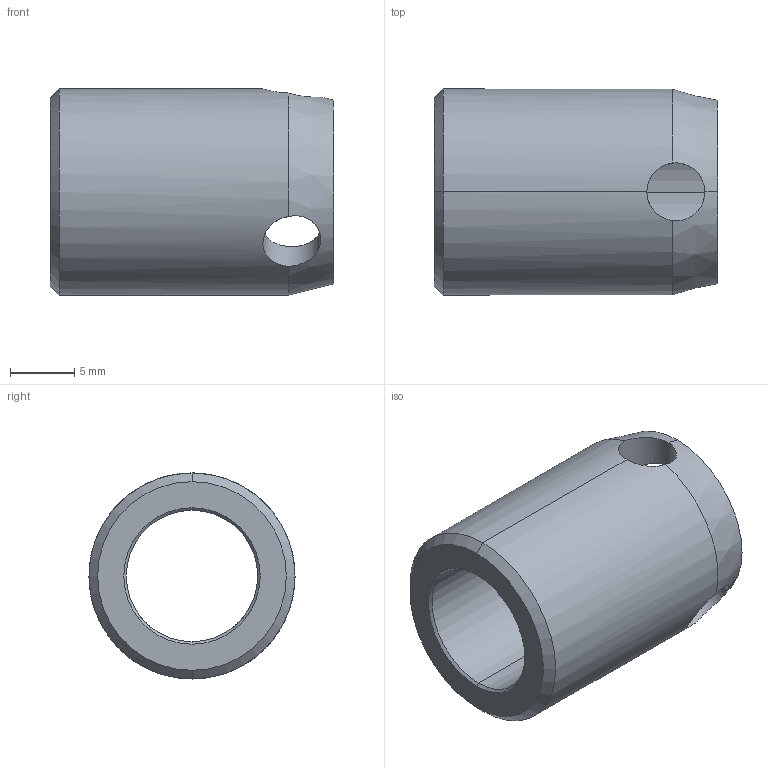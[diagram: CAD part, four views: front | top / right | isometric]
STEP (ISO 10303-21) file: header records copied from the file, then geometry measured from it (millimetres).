
FILE_DESCRIPTION (( 'STEP AP203' ), '1' );
FILE_NAME ('FSUK-SCRS-M12-22.STEP', '2021-08-05T13:02:49', ( '' ), ( '' ), 'SwSTEP 2.0', 'SolidWorks 2021', '' );
FILE_SCHEMA (( 'CONFIG_CONTROL_DESIGN' ));
Length unit declared in the file: millimetre
Products named in the file (1): FSUK-SCRS-M12-22
Bounding box: 22 x 16 x 16 mm (x, y, z)
Volume: 2405.8 mm3; surface area: 1995.6 mm2
Topology: 1 solids, 1 shells, 20 faces, 55 edges, 33 vertices
Faces by surface type: cylinder 10, cone 8, plane 2
Entity records: 1052 total; most frequent: CARTESIAN_POINT 475, ORIENTED_EDGE 110, DIRECTION 97, EDGE_CURVE 55, AXIS2_PLACEMENT_3D 39, VERTEX_POINT 33, EDGE_LOOP 24, ADVANCED_FACE 20
